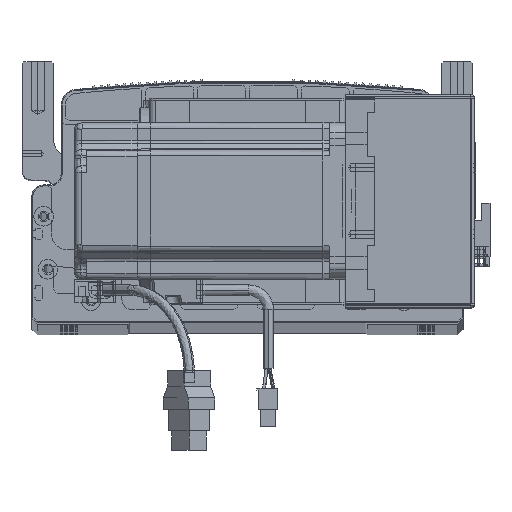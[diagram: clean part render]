
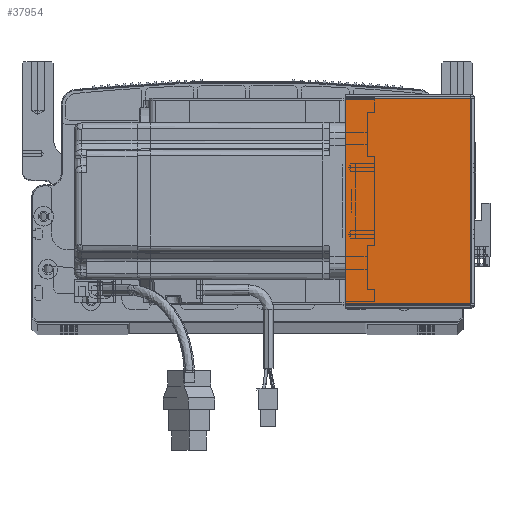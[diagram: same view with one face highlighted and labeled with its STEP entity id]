
A CAD part, top view. The second image highlights one B-rep face of the part: STEP entity #37954.
In plain terms, the highlighted planar face has unit normal (0, 0, 1) as drawn and (0, 0, -1) by its records, which use the part's own axes.
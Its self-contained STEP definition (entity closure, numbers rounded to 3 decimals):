
#952 = DIRECTION ( 'NONE',  ( 1., 0., 0. ) ) ;
#9032 = VECTOR ( 'NONE', #98568, 1000. ) ;
#17491 = VERTEX_POINT ( 'NONE', #76356 ) ;
#19841 = LINE ( 'NONE', #97908, #9032 ) ;
#20534 = DIRECTION ( 'NONE',  ( 1., 0., 0. ) ) ;
#21945 = EDGE_LOOP ( 'NONE', ( #46739, #46555, #65933, #93281 ) ) ;
#22464 = VECTOR ( 'NONE', #20534, 1000. ) ;
#25370 = VECTOR ( 'NONE', #57556, 1000. ) ;
#28614 = CARTESIAN_POINT ( 'NONE',  ( 0., 105.293, -205.5 ) ) ;
#33169 = PLANE ( 'NONE',  #73004 ) ;
#37954 = ADVANCED_FACE ( 'NONE', ( #94066 ), #33169, .F. ) ;
#38365 = VECTOR ( 'NONE', #952, 1000. ) ;
#39357 = CARTESIAN_POINT ( 'NONE',  ( 64.5, 0.707, -205.5 ) ) ;
#42966 = LINE ( 'NONE', #28614, #22464 ) ;
#46555 = ORIENTED_EDGE ( 'NONE', *, *, #71865, .T. ) ;
#46739 = ORIENTED_EDGE ( 'NONE', *, *, #47314, .F. ) ;
#47314 = EDGE_CURVE ( 'NONE', #17491, #88959, #19841, .T. ) ;
#52530 = VERTEX_POINT ( 'NONE', #54390 ) ;
#54390 = CARTESIAN_POINT ( 'NONE',  ( 64.5, 105.293, -205.5 ) ) ;
#57556 = DIRECTION ( 'NONE',  ( 0., -1., 0. ) ) ;
#64478 = DIRECTION ( 'NONE',  ( 1., 0., 0. ) ) ;
#64806 = DIRECTION ( 'NONE',  ( 0., 0., 1. ) ) ;
#65933 = ORIENTED_EDGE ( 'NONE', *, *, #91400, .T. ) ;
#71865 = EDGE_CURVE ( 'NONE', #17491, #52530, #42966, .T. ) ;
#73004 = AXIS2_PLACEMENT_3D ( 'NONE', #94040, #64806, #64478 ) ;
#74694 = CARTESIAN_POINT ( 'NONE',  ( 0., 0.707, -205.5 ) ) ;
#76356 = CARTESIAN_POINT ( 'NONE',  ( 0.737, 105.293, -205.5 ) ) ;
#77882 = EDGE_CURVE ( 'NONE', #88959, #85606, #84091, .T. ) ;
#84091 = LINE ( 'NONE', #74694, #38365 ) ;
#85606 = VERTEX_POINT ( 'NONE', #39357 ) ;
#85699 = CARTESIAN_POINT ( 'NONE',  ( 0.737, 0.707, -205.5 ) ) ;
#88959 = VERTEX_POINT ( 'NONE', #85699 ) ;
#91400 = EDGE_CURVE ( 'NONE', #52530, #85606, #95120, .T. ) ;
#93281 = ORIENTED_EDGE ( 'NONE', *, *, #77882, .F. ) ;
#94040 = CARTESIAN_POINT ( 'NONE',  ( 0., 0., -205.5 ) ) ;
#94066 = FACE_OUTER_BOUND ( 'NONE', #21945, .T. ) ;
#94856 = CARTESIAN_POINT ( 'NONE',  ( 64.5, 0., -205.5 ) ) ;
#95120 = LINE ( 'NONE', #94856, #25370 ) ;
#97908 = CARTESIAN_POINT ( 'NONE',  ( 0.737, 0., -205.5 ) ) ;
#98568 = DIRECTION ( 'NONE',  ( 0., -1., 0. ) ) ;
